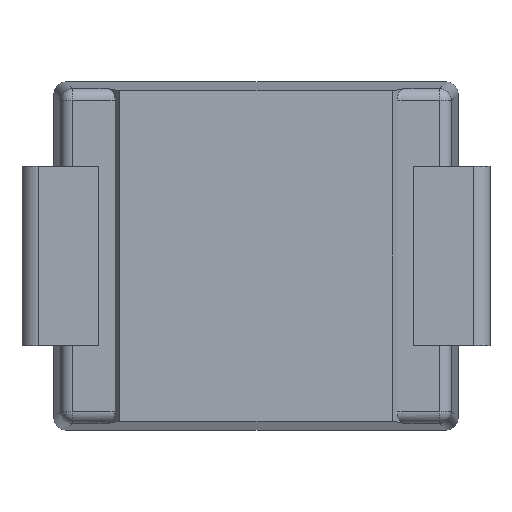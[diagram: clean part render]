
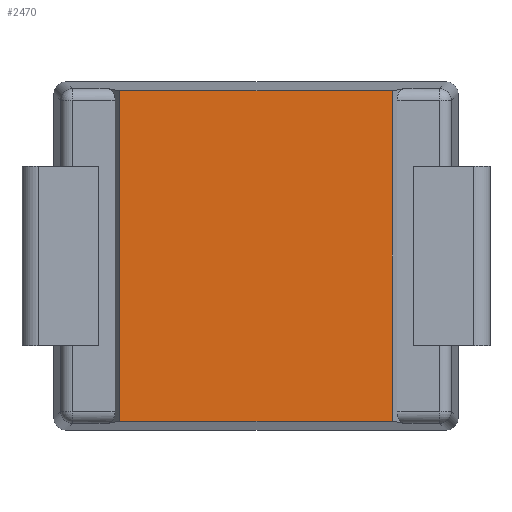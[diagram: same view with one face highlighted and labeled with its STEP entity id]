
A CAD part, front view. The second image highlights one B-rep face of the part: STEP entity #2470.
In plain terms, the highlighted planar face has unit normal (0, -1, 0).
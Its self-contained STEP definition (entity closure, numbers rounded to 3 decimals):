
#122 = LINE ( 'NONE', #345, #1393 ) ;
#184 = DIRECTION ( 'NONE',  ( 0., 0., 1. ) ) ;
#206 = EDGE_CURVE ( 'NONE', #2976, #507, #504, .T. ) ;
#345 = CARTESIAN_POINT ( 'NONE',  ( 3.428, 0.2, 2.802 ) ) ;
#368 = CARTESIAN_POINT ( 'NONE',  ( 2.312, 0.2, -2.802 ) ) ;
#383 = ORIENTED_EDGE ( 'NONE', *, *, #206, .F. ) ;
#504 = LINE ( 'NONE', #1610, #1876 ) ;
#507 = VERTEX_POINT ( 'NONE', #368 ) ;
#587 = CARTESIAN_POINT ( 'NONE',  ( -2.312, 0.2, -2.802 ) ) ;
#750 = EDGE_CURVE ( 'NONE', #2236, #2473, #2961, .T. ) ;
#854 = CARTESIAN_POINT ( 'NONE',  ( 0., 0.2, 0. ) ) ;
#977 = LINE ( 'NONE', #2381, #1258 ) ;
#1152 = EDGE_LOOP ( 'NONE', ( #1413, #383, #1488, #2111 ) ) ;
#1193 = CARTESIAN_POINT ( 'NONE',  ( 2.312, 0.2, 2.802 ) ) ;
#1258 = VECTOR ( 'NONE', #1891, 1000. ) ;
#1268 = EDGE_CURVE ( 'NONE', #507, #2236, #977, .T. ) ;
#1393 = VECTOR ( 'NONE', #1510, 1000. ) ;
#1413 = ORIENTED_EDGE ( 'NONE', *, *, #1268, .F. ) ;
#1473 = CARTESIAN_POINT ( 'NONE',  ( -2.312, 0.2, 0. ) ) ;
#1488 = ORIENTED_EDGE ( 'NONE', *, *, #1792, .F. ) ;
#1510 = DIRECTION ( 'NONE',  ( 1., 0., 0. ) ) ;
#1610 = CARTESIAN_POINT ( 'NONE',  ( 2.312, 0.2, 0. ) ) ;
#1792 = EDGE_CURVE ( 'NONE', #2473, #2976, #122, .T. ) ;
#1876 = VECTOR ( 'NONE', #2527, 1000. ) ;
#1891 = DIRECTION ( 'NONE',  ( -1., 0., 0. ) ) ;
#2001 = DIRECTION ( 'NONE',  ( 0., 1., 0. ) ) ;
#2111 = ORIENTED_EDGE ( 'NONE', *, *, #750, .F. ) ;
#2205 = DIRECTION ( 'NONE',  ( 0., 0., 1. ) ) ;
#2236 = VERTEX_POINT ( 'NONE', #587 ) ;
#2381 = CARTESIAN_POINT ( 'NONE',  ( 3.428, 0.2, -2.802 ) ) ;
#2436 = AXIS2_PLACEMENT_3D ( 'NONE', #854, #2001, #2205 ) ;
#2470 = ADVANCED_FACE ( 'NONE', ( #2718 ), #2893, .F. ) ;
#2473 = VERTEX_POINT ( 'NONE', #2657 ) ;
#2496 = VECTOR ( 'NONE', #184, 1000. ) ;
#2527 = DIRECTION ( 'NONE',  ( 0., 0., -1. ) ) ;
#2657 = CARTESIAN_POINT ( 'NONE',  ( -2.312, 0.2, 2.802 ) ) ;
#2718 = FACE_OUTER_BOUND ( 'NONE', #1152, .T. ) ;
#2893 = PLANE ( 'NONE',  #2436 ) ;
#2961 = LINE ( 'NONE', #1473, #2496 ) ;
#2976 = VERTEX_POINT ( 'NONE', #1193 ) ;
